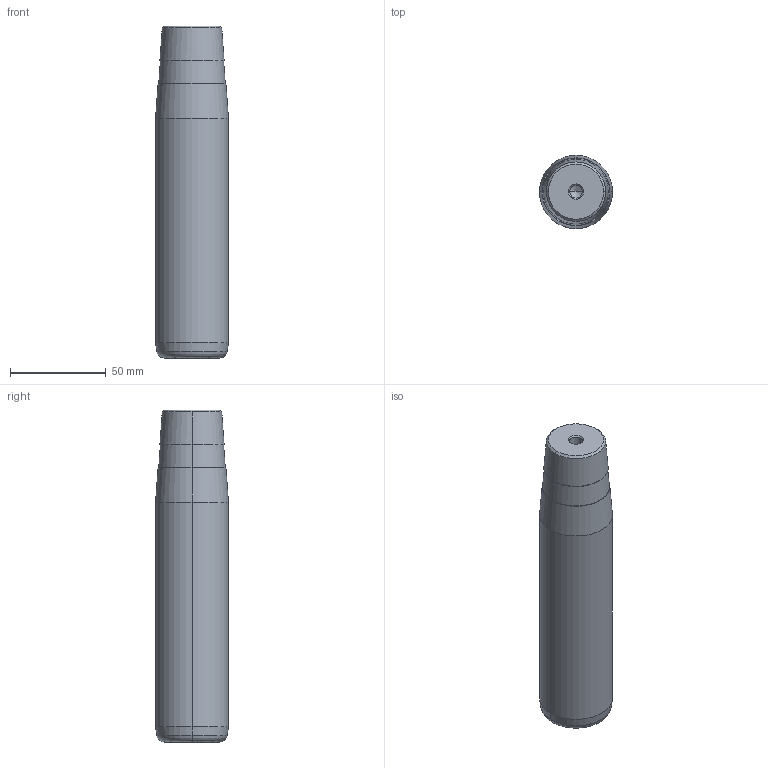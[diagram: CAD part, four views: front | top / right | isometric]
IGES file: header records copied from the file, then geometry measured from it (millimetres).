
Start section: START RECORD GO HERE.
Global section: file name: 722-38x140x173.igs; native system: DASSAULT SYSTEMES CATIA V5 R20 - www.3ds.com; preprocessor: CATIA Version 5 Release 20 ; author: Utente; organization: NB04-ASUS; date: 20210108.170549; units: millimetre
Bounding box: 38 x 38 x 173 mm (x, y, z)
Surface area: 22780.3 mm2 (no closed solid volume)
Topology: 0 solids, 0 shells, 32 faces, 128 edges, 124 vertices
Faces by surface type: revolution 30, plane 2
